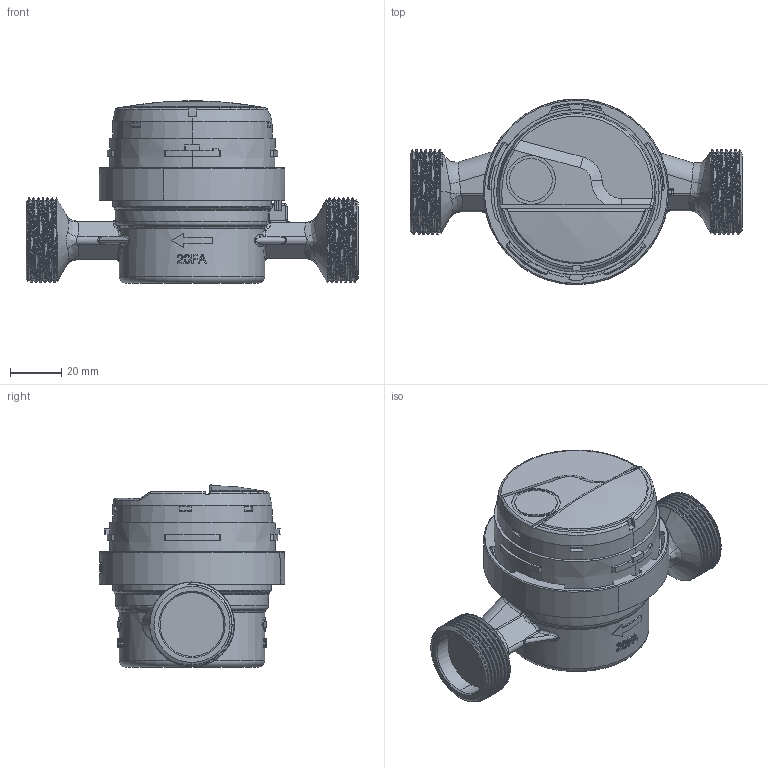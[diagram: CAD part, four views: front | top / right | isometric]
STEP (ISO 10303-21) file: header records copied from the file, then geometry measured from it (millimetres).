
FILE_DESCRIPTION (( 'STEP AP214' ), '1' );
FILE_NAME ('JS90-2,5-G1-07.STEP', '2022-09-15T08:04:13', ( '' ), ( '' ), 'SwSTEP 2.0', 'SolidWorks 2019', '' );
FILE_SCHEMA (( 'AUTOMOTIVE_DESIGN' ));
Length unit declared in the file: millimetre
Products named in the file (8): JS90-2,5-G1-07; 9060-000022; 9004-750202_zagi﹖a; 9004-750201; Assembly-1108; Liczyd³o; js2,5g1; szklanka
Assembly tree (7 placements, depth 3):
  JS90-2,5-G1-07
    js2,5g1
    Liczyd³o
    Assembly-1108
      9004-750201
      9004-750202_zagi﹖a
    szklanka
    9060-000022
Bounding box: 130 x 72.7 x 71.34 mm (x, y, z)
Volume: 220422.2 mm3; surface area: 66723.6 mm2
Topology: 7 solids, 16 shells, 2015 faces, 5545 edges, 3624 vertices
Faces by surface type: plane 844, cylinder 473, bspline 470, cone 138, torus 77, sphere 13
Entity records: 128485 total; most frequent: CARTESIAN_POINT 64974, ORIENTED_EDGE 11072, DIRECTION 8269, EDGE_CURVE 5536, VERTEX_POINT 3624, AXIS2_PLACEMENT_3D 3014, LINE 2241, VECTOR 2241
